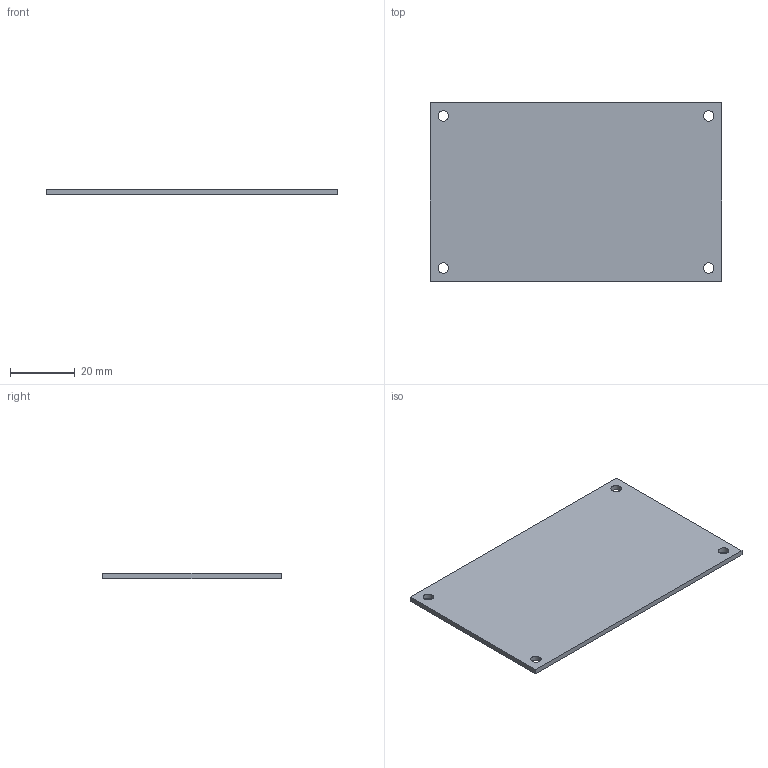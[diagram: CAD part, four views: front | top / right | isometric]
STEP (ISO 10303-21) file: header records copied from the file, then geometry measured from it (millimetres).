
FILE_DESCRIPTION(('Open CASCADE Model'),'2;1');
FILE_NAME('Open CASCADE Shape Model','2026-10-11T16:41:56',('Author'),( 'Open CASCADE'),'Open CASCADE STEP processor 7.8','Open CASCADE 7.8' ,'Unknown');
FILE_SCHEMA(('AUTOMOTIVE_DESIGN { 1 0 10303 214 1 1 1 1 }'));
Length unit declared in the file: millimetre
Products named in the file (1): Open CASCADE STEP translator 7.8 1
Bounding box: 90 x 55 x 1.6 mm (x, y, z)
Volume: 7868.5 mm3; surface area: 10364 mm2
Topology: 1 solids, 1 shells, 10 faces, 24 edges, 16 vertices
Faces by surface type: plane 6, cylinder 4
Full cylindrical faces by diameter (mm): 3.2 x4
Entity records: 658 total; most frequent: CARTESIAN_POINT 147, DIRECTION 94, LINE 56, VECTOR 56, ORIENTED_EDGE 48, PCURVE 48, DEFINITIONAL_REPRESENTATION 48, EDGE_CURVE 24
